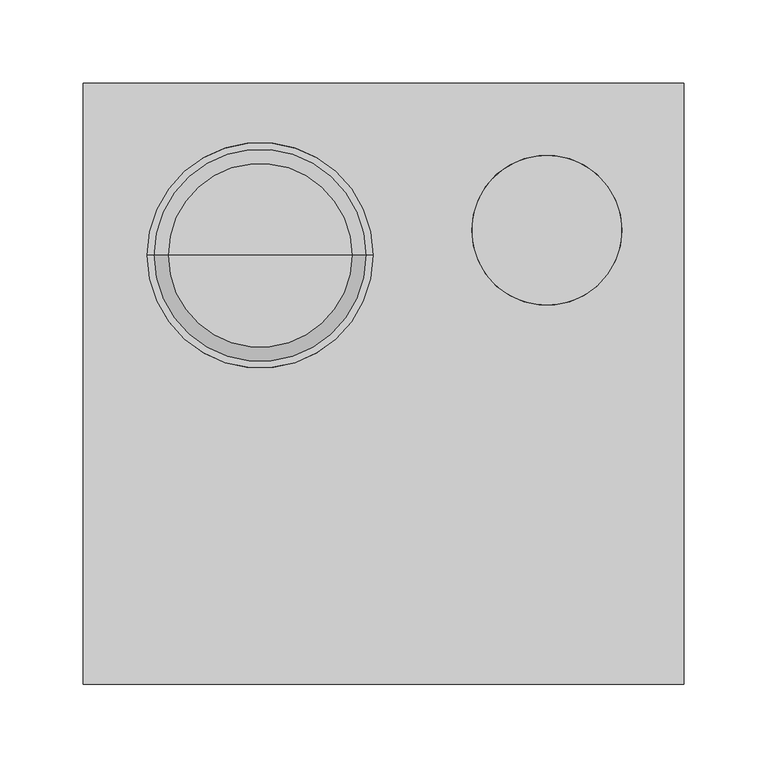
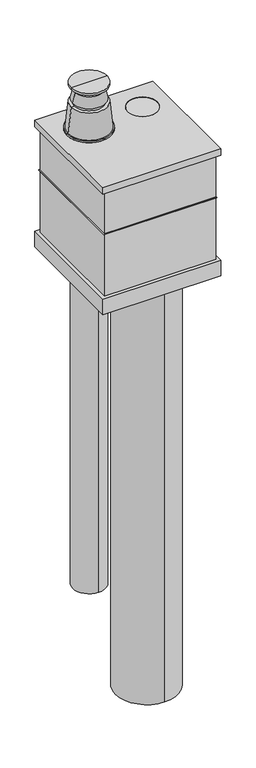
"""IFC4 building model written with IfcOpenShell, lengths in millimetres: proxy geometry, MG_BPL_Mini-Delta_M&G : SPECCHIOPP 60/100 XL (MIRROR)."""

from ifc_helpers import new_model, si_unit, point, frame, frame_2d, origin, place, context, project, spatial, polyline, circle_curve, trimmed, segment, composite_curve, outline, extrude, faceted_brep, source, transform, mapped, element, save
from ifc_brep_helpers import plane_surface, cylinder_surface, revolved_surface, advanced_brep


def generic_models_beda620d(model_context):
    return source(origin(), model_context, "Body", "SolidModel", [
        advanced_brep(
        [(13.5, 77.0, 577.4081458), (-161.5, 77.0, 577.4081458), (-74.0, 77.0, 577.4081458), (-6.3843383, 77.0, 686.4081458), (-141.6156617, 77.0, 686.4081458), (-6.3843383, 77.0, 691.4081458), (-141.6156617, 77.0, 691.4081458), (-10.3450748, 77.0, 691.4081458), (-137.6549252, 77.0, 691.4081458), (-19.0, 77.0, 773.7542581), (-129.0, 77.0, 773.7542581), (-29.0, 77.0, 773.7542581), (-119.0, 77.0, 773.7542581), (-29.0, 77.0, 783.7542581), (-119.0, 77.0, 783.7542581), (-23.961256, 77.0, 783.7542581), (-124.038744, 77.0, 783.7542581), (-31.5, 77.0, 816.4081458), (-116.5, 77.0, 816.4081458), (-64.0, 77.0, 816.4081458), (-84.0, 77.0, 816.4081458), (-64.0, 77.0, 818.3888937), (-84.0, 77.0, 818.3888937), (-19.0, 77.0, 830.4466073), (-129.0, 77.0, 830.4466073), (-19.0, 77.0, 836.4081458), (-129.0, 77.0, 836.4081458), (-74.0, 77.0, 836.4081458)],
        [
            (0, 1, circle_curve(frame((-74.0, 77.0, 577.4081458), z_axis=(0.0, 0.0, -1.0), x_axis=(-1.0, 0.0, 0.0)), 87.5)),
            (1, 2),
            (2, 0),
            (1, 0, circle_curve(frame((-74.0, 77.0, 577.4081458), z_axis=(0.0, 0.0, -1.0), x_axis=(-1.0, 0.0, 0.0)), 87.5)),
            (3, 4, circle_curve(frame((-74.0, 77.0, 686.4081458), z_axis=(0.0, 0.0, -1.0), x_axis=(-1.0, 0.0, 0.0)), 67.6156617)),
            (4, 1),
            (0, 3),
            (4, 3, circle_curve(frame((-74.0, 77.0, 686.4081458), z_axis=(0.0, 0.0, -1.0), x_axis=(-1.0, 0.0, 0.0)), 67.6156617)),
            (5, 6, circle_curve(frame((-74.0, 77.0, 691.4081458), z_axis=(0.0, 0.0, -1.0), x_axis=(-1.0, 0.0, 0.0)), 67.6156617)),
            (6, 4),
            (3, 5),
            (6, 5, circle_curve(frame((-74.0, 77.0, 691.4081458), z_axis=(0.0, 0.0, -1.0), x_axis=(-1.0, 0.0, 0.0)), 67.6156617)),
            (7, 8, circle_curve(frame((-74.0, 77.0, 691.4081458), z_axis=(0.0, 0.0, -1.0), x_axis=(-1.0, 0.0, 0.0)), 63.6549252)),
            (8, 6),
            (5, 7),
            (8, 7, circle_curve(frame((-74.0, 77.0, 691.4081458), z_axis=(0.0, 0.0, -1.0), x_axis=(-1.0, 0.0, 0.0)), 63.6549252)),
            (9, 10, circle_curve(frame((-74.0, 77.0, 773.7542581), z_axis=(0.0, 0.0, -1.0), x_axis=(-1.0, 0.0, 0.0)), 55.0)),
            (10, 8),
            (7, 9),
            (10, 9, circle_curve(frame((-74.0, 77.0, 773.7542581), z_axis=(0.0, 0.0, -1.0), x_axis=(-1.0, 0.0, 0.0)), 55.0)),
            (11, 12, circle_curve(frame((-74.0, 77.0, 773.7542581), z_axis=(0.0, 0.0, -1.0), x_axis=(-1.0, 0.0, 0.0)), 45.0)),
            (12, 10),
            (9, 11),
            (12, 11, circle_curve(frame((-74.0, 77.0, 773.7542581), z_axis=(0.0, 0.0, -1.0), x_axis=(-1.0, 0.0, 0.0)), 45.0)),
            (13, 14, circle_curve(frame((-74.0, 77.0, 783.7542581), z_axis=(0.0, 0.0, -1.0), x_axis=(-1.0, 0.0, 0.0)), 45.0)),
            (14, 12),
            (11, 13),
            (14, 13, circle_curve(frame((-74.0, 77.0, 783.7542581), z_axis=(0.0, 0.0, -1.0), x_axis=(-1.0, 0.0, 0.0)), 45.0)),
            (15, 16, circle_curve(frame((-74.0, 77.0, 783.7542581), z_axis=(0.0, 0.0, -1.0), x_axis=(-1.0, 0.0, 0.0)), 50.038744)),
            (16, 14),
            (13, 15),
            (16, 15, circle_curve(frame((-74.0, 77.0, 783.7542581), z_axis=(0.0, 0.0, -1.0), x_axis=(-1.0, 0.0, 0.0)), 50.038744)),
            (17, 18, circle_curve(frame((-74.0, 77.0, 816.4081458), z_axis=(0.0, 0.0, -1.0), x_axis=(-1.0, 0.0, 0.0)), 42.5)),
            (18, 16),
            (15, 17),
            (18, 17, circle_curve(frame((-74.0, 77.0, 816.4081458), z_axis=(0.0, 0.0, -1.0), x_axis=(-1.0, 0.0, 0.0)), 42.5)),
            (19, 20, circle_curve(frame((-74.0, 77.0, 816.4081458), z_axis=(0.0, 0.0, -1.0), x_axis=(-1.0, 0.0, 0.0)), 10.0)),
            (20, 18),
            (17, 19),
            (20, 19, circle_curve(frame((-74.0, 77.0, 816.4081458), z_axis=(0.0, 0.0, -1.0), x_axis=(-1.0, 0.0, 0.0)), 10.0)),
            (21, 22, circle_curve(frame((-74.0, 77.0, 818.3888937), z_axis=(0.0, 0.0, -1.0), x_axis=(-1.0, 0.0, 0.0)), 10.0)),
            (22, 20),
            (19, 21),
            (22, 21, circle_curve(frame((-74.0, 77.0, 818.3888937), z_axis=(0.0, 0.0, -1.0), x_axis=(-1.0, 0.0, 0.0)), 10.0)),
            (23, 24, circle_curve(frame((-74.0, 77.0, 830.4466073), z_axis=(0.0, 0.0, -1.0), x_axis=(-1.0, 0.0, 0.0)), 55.0)),
            (24, 22),
            (21, 23),
            (24, 23, circle_curve(frame((-74.0, 77.0, 830.4466073), z_axis=(0.0, 0.0, -1.0), x_axis=(-1.0, 0.0, 0.0)), 55.0)),
            (25, 26, circle_curve(frame((-74.0, 77.0, 836.4081458), z_axis=(0.0, 0.0, -1.0), x_axis=(-1.0, 0.0, 0.0)), 55.0)),
            (26, 24),
            (23, 25),
            (26, 25, circle_curve(frame((-74.0, 77.0, 836.4081458), z_axis=(0.0, 0.0, -1.0), x_axis=(-1.0, 0.0, 0.0)), 55.0)),
            (27, 26),
            (25, 27),
        ],
        [
            plane_surface(frame((-74.0, 77.0, 577.4081458), z_axis=(0.0, 0.0, -1.0), x_axis=(-1.0, 0.0, 0.0))),
            revolved_surface(polyline([(-161.5, 77.0, 577.4081458), (-141.6156617, 77.0, 686.4081458)]), (-74.0, 77.0, -127.5430842), (0.0, 0.0, 1.0)),
            cylinder_surface(frame((-74.0, 77.0, -127.5430842), z_axis=(0.0, 0.0, 1.0), x_axis=(-1.0, 0.0, 0.0)), 67.6156617),
            plane_surface(frame((-74.0, 77.0, 691.4081458), z_axis=(0.0, 0.0, 1.0), x_axis=(-1.0, 0.0, 0.0))),
            revolved_surface(polyline([(-137.6549252, 77.0, 691.4081458), (-129.0, 77.0, 773.7542581)]), (-74.0, 77.0, -127.5430842), (0.0, 0.0, 1.0)),
            plane_surface(frame((-74.0, 77.0, 773.7542581), z_axis=(0.0, 0.0, 1.0), x_axis=(-1.0, 0.0, 0.0))),
            cylinder_surface(frame((-74.0, 77.0, -127.5430842), z_axis=(0.0, 0.0, 1.0), x_axis=(-1.0, 0.0, 0.0)), 45.0),
            plane_surface(frame((-74.0, 77.0, 783.7542581), z_axis=(0.0, 0.0, -1.0), x_axis=(-1.0, 0.0, 0.0))),
            revolved_surface(polyline([(-124.038744, 77.0, 783.7542581), (-116.5, 77.0, 816.4081458)]), (-74.0, 77.0, -127.5430842), (0.0, 0.0, 1.0)),
            plane_surface(frame((-74.0, 77.0, 816.4081458), z_axis=(0.0, 0.0, 1.0), x_axis=(-1.0, 0.0, 0.0))),
            cylinder_surface(frame((-74.0, 77.0, -127.5430842), z_axis=(0.0, 0.0, 1.0), x_axis=(-1.0, 0.0, 0.0)), 10.0),
            revolved_surface(polyline([(-84.0, 77.0, 818.3888937), (-129.0, 77.0, 830.4466073)]), (-74.0, 77.0, -127.5430842), (0.0, 0.0, 1.0)),
            cylinder_surface(frame((-74.0, 77.0, -127.5430842), z_axis=(0.0, 0.0, 1.0), x_axis=(-1.0, 0.0, 0.0)), 55.0),
            plane_surface(frame((-74.0, 77.0, 836.4081458), z_axis=(0.0, 0.0, 1.0), x_axis=(-1.0, 0.0, 0.0))),
        ],
        [
            (0, [[1, 2, 3]]),
            (0, [[4, -3, -2]]),
            (1, [[5, 6, -1, 7]]),
            (1, [[8, -7, -4, -6]]),
            (2, [[9, 10, -5, 11]]),
            (2, [[12, -11, -8, -10]]),
            (3, [[13, 14, -9, 15]]),
            (3, [[16, -15, -12, -14]]),
            (4, [[17, 18, -13, 19]]),
            (4, [[20, -19, -16, -18]]),
            (5, [[21, 22, -17, 23]]),
            (5, [[24, -23, -20, -22]]),
            (6, [[25, 26, -21, 27]]),
            (6, [[28, -27, -24, -26]]),
            (7, [[29, 30, -25, 31]]),
            (7, [[32, -31, -28, -30]]),
            (8, [[33, 34, -29, 35]]),
            (8, [[36, -35, -32, -34]]),
            (9, [[37, 38, -33, 39]]),
            (9, [[40, -39, -36, -38]]),
            (10, [[41, 42, -37, 43]]),
            (10, [[44, -43, -40, -42]]),
            (11, [[45, 46, -41, 47]]),
            (11, [[48, -47, -44, -46]]),
            (12, [[49, 50, -45, 51]]),
            (12, [[52, -51, -48, -50]]),
            (13, [[53, -49, 54]]),
            (13, [[-54, -52, -53]]),
        ],
    ),
        extrude(outline(polyline([(172.5, 172.5), (172.5, -172.5), (-172.5, -172.5), (-172.5, 172.5), (172.5, 172.5)])), frame((0.0, 0.0, 527.4081458), z_axis=(0.0, 0.0, 1.0), x_axis=(1.0, 0.0, 0.0)), (0.0, 0.0, 1.0), 1.3),
        extrude(outline(composite_curve([segment(trimmed(circle_curve(frame_2d((98.0, 92.0)), 45.0), [point((98.0, 47.0))], [point((98.0, 137.0))], False, "CARTESIAN"), True, "CONTINUOUS"), segment(trimmed(circle_curve(frame_2d((98.0, 92.0)), 45.0), [point((98.0, 137.0))], [point((98.0, 47.0))], False, "CARTESIAN"), True, "CONTINUOUS")], self_intersect=False)), frame((0.0, 0.0, -948.5918542), z_axis=(0.0, 0.0, 1.0), x_axis=(1.0, 0.0, 0.0)), (0.0, 0.0, 1.0), 1633.7),
        extrude(outline(composite_curve([segment(trimmed(circle_curve(frame_2d((-74.0, 77.0)), 50.0), [point((-74.0, 27.0))], [point((-74.0, 127.0))], False, "CARTESIAN"), True, "CONTINUOUS"), segment(trimmed(circle_curve(frame_2d((-74.0, 77.0)), 50.0), [point((-74.0, 127.0))], [point((-74.0, 27.0))], False, "CARTESIAN"), True, "CONTINUOUS")], self_intersect=False)), frame((0.0, 0.0, -782.5918542), z_axis=(0.0, 0.0, 1.0), x_axis=(1.0, 0.0, 0.0)), (0.0, 0.0, 1.0), 1449.0),
        extrude(outline(composite_curve([segment(trimmed(circle_curve(frame_2d((33.0, -42.0)), 95.0), [point((33.0, -137.0))], [point((33.0, 53.0))], False, "CARTESIAN"), True, "CONTINUOUS"), segment(trimmed(circle_curve(frame_2d((33.0, -42.0)), 95.0), [point((33.0, 53.0))], [point((33.0, -137.0))], False, "CARTESIAN"), True, "CONTINUOUS")], self_intersect=False)), frame((0.0, 0.0, -1074.5918542), z_axis=(0.0, 0.0, 1.0), x_axis=(1.0, 0.0, 0.0)), (0.0, 0.0, 1.0), 1500.0),
        advanced_brep(
        [(180.0, 180.0, 686.4081458), (-180.0, 180.0, 686.4081458), (-180.0, -180.0, 686.4081458), (180.0, -180.0, 686.4081458), (53.0, 92.0, 686.4081458), (143.0, 92.0, 686.4081458), (180.0, 180.0, 666.4081458), (180.0, -180.0, 666.4081458), (-180.0, -180.0, 666.4081458), (-180.0, 180.0, 666.4081458), (178.7, 178.7, 666.4081458), (-178.7, 178.7, 666.4081458), (-178.7, -178.7, 666.4081458), (178.7, -178.7, 666.4081458), (170.0, 170.0, 666.4081458), (170.0, -170.0, 666.4081458), (-170.0, -170.0, 666.4081458), (-170.0, 170.0, 666.4081458), (168.7, -168.7, 666.4081458), (168.7, 168.7, 666.4081458), (-168.7, 168.7, 666.4081458), (-168.7, -168.7, 666.4081458), (178.7, 178.7, 685.1081458), (178.7, -178.7, 685.1081458), (-178.7, -178.7, 685.1081458), (-178.7, 178.7, 685.1081458), (170.0, 170.0, 685.1081458), (-170.0, 170.0, 685.1081458), (-170.0, -170.0, 685.1081458), (170.0, -170.0, 685.1081458), (168.7, -168.7, 685.1081458), (-168.7, -168.7, 685.1081458), (-168.7, 168.7, 685.1081458), (168.7, 168.7, 685.1081458), (143.0, 92.0, 685.1081458), (53.0, 92.0, 685.1081458)],
        [
            (0, 1),
            (1, 2),
            (2, 3),
            (3, 0),
            (4, 5, circle_curve(frame((98.0, 92.0, 686.4081458), z_axis=(0.0, 0.0, -1.0), x_axis=(1.0, 0.0, 0.0)), 45.0)),
            (5, 4, circle_curve(frame((98.0, 92.0, 686.4081458), z_axis=(0.0, 0.0, -1.0), x_axis=(1.0, 0.0, 0.0)), 45.0)),
            (6, 7),
            (7, 8),
            (8, 9),
            (9, 6),
            (10, 11),
            (11, 12),
            (12, 13),
            (13, 10),
            (14, 15),
            (15, 16),
            (16, 17),
            (17, 14),
            (18, 19),
            (19, 20),
            (20, 21),
            (21, 18),
            (0, 6),
            (9, 1),
            (8, 2),
            (7, 3),
            (22, 23),
            (23, 24),
            (24, 25),
            (25, 22),
            (26, 27),
            (27, 28),
            (28, 29),
            (29, 26),
            (30, 31),
            (31, 32),
            (32, 33),
            (33, 30),
            (34, 35, circle_curve(frame((98.0, 92.0, 685.1081458), z_axis=(0.0, 0.0, 1.0), x_axis=(1.0, 0.0, 0.0)), 45.0)),
            (35, 34, circle_curve(frame((98.0, 92.0, 685.1081458), z_axis=(0.0, 0.0, 1.0), x_axis=(1.0, 0.0, 0.0)), 45.0)),
            (25, 11),
            (10, 22),
            (24, 12),
            (23, 13),
            (29, 15),
            (14, 26),
            (28, 16),
            (27, 17),
            (33, 19),
            (18, 30),
            (32, 20),
            (31, 21),
            (4, 35),
            (34, 5),
        ],
        [
            plane_surface(frame((-180.0, 180.0, 686.4081458), z_axis=(0.0, 0.0, 1.0), x_axis=(-1.0, 0.0, 0.0))),
            plane_surface(frame((-180.0, 180.0, 666.4081458), z_axis=(0.0, 0.0, -1.0), x_axis=(1.0, 0.0, 0.0))),
            plane_surface(frame((180.0, 180.0, 686.4081458), z_axis=(0.0, 1.0, 0.0), x_axis=(0.0, 0.0, -1.0))),
            plane_surface(frame((-180.0, 180.0, 686.4081458), z_axis=(-1.0, 0.0, 0.0), x_axis=(0.0, 0.0, -1.0))),
            plane_surface(frame((-180.0, -180.0, 686.4081458), z_axis=(0.0, -1.0, 0.0), x_axis=(0.0, 0.0, -1.0))),
            plane_surface(frame((180.0, -180.0, 686.4081458), z_axis=(1.0, 0.0, 0.0), x_axis=(0.0, 0.0, -1.0))),
            plane_surface(frame((-170.0, 178.7, 685.1081458), z_axis=(0.0, 0.0, -1.0), x_axis=(-1.0, 0.0, 0.0))),
            plane_surface(frame((178.7, 178.7, 685.1081458), z_axis=(0.0, -1.0, 0.0), x_axis=(0.0, 0.0, -1.0))),
            plane_surface(frame((-178.7, 178.7, 685.1081458), z_axis=(1.0, 0.0, 0.0), x_axis=(0.0, 0.0, -1.0))),
            plane_surface(frame((-178.7, -178.7, 685.1081458), z_axis=(0.0, 1.0, 0.0), x_axis=(0.0, 0.0, -1.0))),
            plane_surface(frame((178.7, -178.7, 685.1081458), z_axis=(-1.0, 0.0, 0.0), x_axis=(0.0, 0.0, -1.0))),
            plane_surface(frame((170.0, 170.0, 685.1081458), z_axis=(1.0, 0.0, 0.0), x_axis=(0.0, 0.0, -1.0))),
            plane_surface(frame((170.0, -170.0, 685.1081458), z_axis=(0.0, -1.0, 0.0), x_axis=(0.0, 0.0, -1.0))),
            plane_surface(frame((-170.0, -170.0, 685.1081458), z_axis=(-1.0, 0.0, 0.0), x_axis=(0.0, 0.0, -1.0))),
            plane_surface(frame((-170.0, 170.0, 685.1081458), z_axis=(0.0, 1.0, 0.0), x_axis=(0.0, 0.0, -1.0))),
            plane_surface(frame((168.7, -168.7, 685.1081458), z_axis=(-1.0, 0.0, 0.0), x_axis=(0.0, 0.0, -1.0))),
            plane_surface(frame((168.7, 168.7, 685.1081458), z_axis=(0.0, -1.0, 0.0), x_axis=(0.0, 0.0, -1.0))),
            plane_surface(frame((-168.7, 168.7, 685.1081458), z_axis=(1.0, 0.0, 0.0), x_axis=(0.0, 0.0, -1.0))),
            plane_surface(frame((-168.7, -168.7, 685.1081458), z_axis=(0.0, 1.0, 0.0), x_axis=(0.0, 0.0, -1.0))),
            revolved_surface(polyline([(143.0, 92.0, 685.1081458), (143.0, 92.0, 686.4081458)]), (98.0, 92.0, 666.4081458), (0.0, 0.0, -1.0)),
        ],
        [
            (0, [[1, 2, 3, 4], [5, 6]]),
            (1, [[7, 8, 9, 10], [11, 12, 13, 14]]),
            (1, [[15, 16, 17, 18], [19, 20, 21, 22]]),
            (2, [[-1, 23, -10, 24]]),
            (3, [[-2, -24, -9, 25]]),
            (4, [[-3, -25, -8, 26]]),
            (5, [[-4, -26, -7, -23]]),
            (6, [[27, 28, 29, 30], [31, 32, 33, 34]]),
            (6, [[35, 36, 37, 38], [39, 40]]),
            (7, [[-30, 41, -11, 42]]),
            (8, [[-29, 43, -12, -41]]),
            (9, [[-28, 44, -13, -43]]),
            (10, [[-27, -42, -14, -44]]),
            (11, [[-34, 45, -15, 46]]),
            (12, [[-33, 47, -16, -45]]),
            (13, [[-32, 48, -17, -47]]),
            (14, [[-31, -46, -18, -48]]),
            (15, [[-38, 49, -19, 50]]),
            (16, [[-37, 51, -20, -49]]),
            (17, [[-36, 52, -21, -51]]),
            (18, [[-35, -50, -22, -52]]),
            (19, [[53, -39, 54, -5]]),
            (19, [[-53, -6, -54, -40]]),
        ],
    ),
        faceted_brep([(170.0, 170.0, 685.1081458), (-170.0, 170.0, 685.1081458), (-170.0, -170.0, 685.1081458), (170.0, -170.0, 685.1081458), (168.7, 168.7, 685.1081458), (168.7, -168.7, 685.1081458), (-168.7, -168.7, 685.1081458), (-168.7, 168.7, 685.1081458), (170.0, 170.0, 327.4081458), (170.0, -170.0, 327.4081458), (-170.0, -170.0, 327.4081458), (-170.0, 170.0, 327.4081458), (168.7, 168.7, 327.4081458), (-168.7, 168.7, 327.4081458), (-168.7, -168.7, 327.4081458), (168.7, -168.7, 327.4081458), (170.0, 170.0, 666.4081458), (-170.0, 170.0, 666.4081458), (-170.0, -170.0, 666.4081458), (170.0, -170.0, 666.4081458), (168.7, 168.7, 666.4081458), (168.7, -168.7, 666.4081458), (-168.7, -168.7, 666.4081458), (-168.7, 168.7, 666.4081458)], [[[0, 1, 2, 3], [4, 5, 6, 7]], [[8, 9, 10, 11], [12, 13, 14, 15]], [[1, 0, 16, 8, 11, 17]], [[2, 1, 17, 11, 10, 18]], [[3, 2, 18, 10, 9, 19]], [[0, 3, 19, 9, 8, 16]], [[5, 4, 20, 12, 15, 21]], [[6, 5, 21, 15, 14, 22]], [[7, 6, 22, 14, 13, 23]], [[4, 7, 23, 13, 12, 20]]]),
        faceted_brep([(180.0, 180.0, 277.4081458), (180.0, -180.0, 277.4081458), (-180.0, -180.0, 277.4081458), (-180.0, 180.0, 277.4081458), (178.7, 178.7, 277.4081458), (-178.7, 178.7, 277.4081458), (-178.7, 77.3, 277.4081458), (178.7, 77.3, 277.4081458), (180.0, 180.0, 327.4081458), (-180.0, 180.0, 327.4081458), (-180.0, -180.0, 327.4081458), (180.0, -180.0, 327.4081458), (178.7, 178.7, 326.1081458), (178.7, 77.3, 326.1081458), (-178.7, 77.3, 326.1081458), (-178.7, 178.7, 326.1081458)], [[[0, 1, 2, 3], [4, 5, 6, 7]], [[8, 9, 10, 11]], [[0, 3, 9, 8]], [[3, 2, 10, 9]], [[2, 1, 11, 10]], [[1, 0, 8, 11]], [[12, 13, 14, 15]], [[12, 15, 5, 4]], [[15, 14, 6, 5]], [[14, 13, 7, 6]], [[13, 12, 4, 7]]]),
    ])


if __name__ == "__main__":
    model = new_model("IFC4")
    model_context = context("Model", 3, world=origin())
    ifc_project = project(units=[si_unit("LENGTHUNIT", "METRE", prefix="MILLI")], contexts=[model_context])
    site = spatial("IfcSite", under=ifc_project)
    building = spatial("IfcBuilding", under=site)
    placement = place(None, origin())
    generic_models_shape = generic_models_beda620d(model_context)
    element("IfcBuildingElementProxy", 1, Name="MG_BPL_Mini-Delta_M&G : SPECCHIOPP 60/100 XL (MIRROR)", ObjectType="MG_BPL_Mini-Delta_M&G : SPECCHIOPP 60/100 XL (MIRROR)", at=placement, inside=building, context=model_context, shape_type="MappedRepresentation", body=[
        mapped(generic_models_shape, transform((0.0, 0.0, 0.0), x_axis=(1.0, 0.0, 0.0), y_axis=(0.0, 1.0, 0.0), z_axis=(0.0, 0.0, 1.0))),
    ])
    save(model, "model.ifc")
